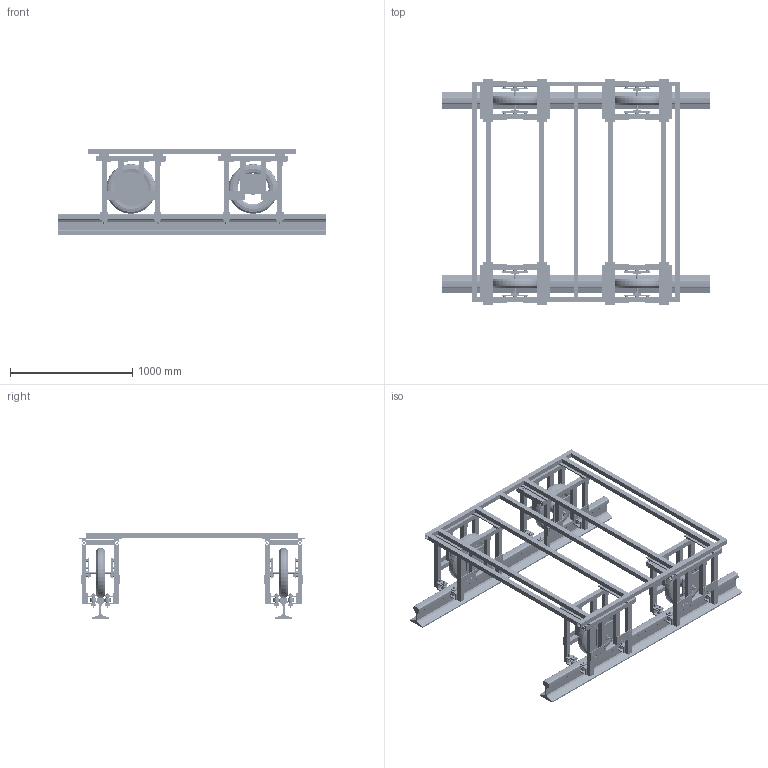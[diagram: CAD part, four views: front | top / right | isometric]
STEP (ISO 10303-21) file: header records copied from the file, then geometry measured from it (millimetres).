
FILE_DESCRIPTION(('Open CASCADE Model'),'2;1');
FILE_NAME('Open CASCADE Shape Model','2026-11-17T01:50:53',('Author'),( 'Open CASCADE'),'Open CASCADE STEP processor 7.8','Open CASCADE 7.8' ,'Unknown');
FILE_SCHEMA(('AUTOMOTIVE_DESIGN { 1 0 10303 214 1 1 1 1 }'));
Length unit declared in the file: millimetre
Products named in the file (624): Four_wheel_RIGID_chassis_DRAFT; REAR_DRIVE_0_M01_Rotating_tire_ASSUMED; REAR_DRIVE_0_M02_Rotating_motor_envelope; REAR_DRIVE_0_M03_Fixed_axle_INPUT_REFERENCE; REAR_DRIVE_0_F01_Long_beam_-1; REAR_DRIVE_0_F02_Post_motor_-1_-1; REAR_DRIVE_0_F02_Post_guide_-1_-1; REAR_DRIVE_0_F02_Post_motor_1_-1; REAR_DRIVE_0_F02_Post_guide_1_-1; REAR_DRIVE_0_F01_Long_beam_1; REAR_DRIVE_0_F02_Post_motor_-1_1; REAR_DRIVE_0_F02_Post_guide_-1_1; REAR_DRIVE_0_F02_Post_motor_1_1; REAR_DRIVE_0_F02_Post_guide_1_1; REAR_DRIVE_0_F03_Cross_beam_-1; REAR_DRIVE_0_F03_Cross_beam_1; REAR_DRIVE_0_A01_Axle_plate_-1; REAR_DRIVE_0_A02_Torque_keeper_-1; REAR_DRIVE_0_A03_M16_washer_-1; REAR_DRIVE_0_A04_M16_axle_nut_-1; REAR_DRIVE_0_A01_Axle_plate_1; REAR_DRIVE_0_A02_Torque_keeper_1; REAR_DRIVE_0_A03_M16_washer_1; REAR_DRIVE_0_A04_M16_axle_nut_1; REAR_DRIVE_0_A05_Spacer_-1_-1_0; REAR_DRIVE_0_A05_Spacer_-1_-1_1; REAR_DRIVE_0_A05_Spacer_-1_-1_2; REAR_DRIVE_0_A05_Spacer_-1_1_0; REAR_DRIVE_0_A05_Spacer_-1_1_1; REAR_DRIVE_0_A05_Spacer_-1_1_2; REAR_DRIVE_0_A05_Spacer_1_-1_0; REAR_DRIVE_0_A05_Spacer_1_-1_1; REAR_DRIVE_0_A05_Spacer_1_-1_2; REAR_DRIVE_0_A05_Spacer_1_1_0; REAR_DRIVE_0_A05_Spacer_1_1_1; REAR_DRIVE_0_A05_Spacer_1_1_2; REAR_DRIVE_0_G01_PU_roller_-1_-1; REAR_DRIVE_0_G02_roller_core_-1_-1; REAR_DRIVE_0_G03_6002DDU_-1_-1_0; REAR_DRIVE_0_G03_6002DDU_-1_-1_1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
Assembly tree (623 placements, depth 2):
  Four_wheel_RIGID_chassis_DRAFT
    REAR_DRIVE_0_M01_Rotating_tire_ASSUMED
    REAR_DRIVE_0_M02_Rotating_motor_envelope
    REAR_DRIVE_0_M03_Fixed_axle_INPUT_REFERENCE
    REAR_DRIVE_0_F01_Long_beam_-1
    REAR_DRIVE_0_F02_Post_motor_-1_-1
    REAR_DRIVE_0_F02_Post_guide_-1_-1
    REAR_DRIVE_0_F02_Post_motor_1_-1
    REAR_DRIVE_0_F02_Post_guide_1_-1
    REAR_DRIVE_0_F01_Long_beam_1
    REAR_DRIVE_0_F02_Post_motor_-1_1
    REAR_DRIVE_0_F02_Post_guide_-1_1
    REAR_DRIVE_0_F02_Post_motor_1_1
    REAR_DRIVE_0_F02_Post_guide_1_1
    REAR_DRIVE_0_F03_Cross_beam_-1
    REAR_DRIVE_0_F03_Cross_beam_1
    REAR_DRIVE_0_A01_Axle_plate_-1
    REAR_DRIVE_0_A02_Torque_keeper_-1
    REAR_DRIVE_0_A03_M16_washer_-1
    REAR_DRIVE_0_A04_M16_axle_nut_-1
    REAR_DRIVE_0_A01_Axle_plate_1
    REAR_DRIVE_0_A02_Torque_keeper_1
    REAR_DRIVE_0_A03_M16_washer_1
    REAR_DRIVE_0_A04_M16_axle_nut_1
    REAR_DRIVE_0_A05_Spacer_-1_-1_0
    REAR_DRIVE_0_A05_Spacer_-1_-1_1
    REAR_DRIVE_0_A05_Spacer_-1_-1_2
    REAR_DRIVE_0_A05_Spacer_-1_1_0
    REAR_DRIVE_0_A05_Spacer_-1_1_1
    REAR_DRIVE_0_A05_Spacer_-1_1_2
    REAR_DRIVE_0_A05_Spacer_1_-1_0
    REAR_DRIVE_0_A05_Spacer_1_-1_1
    REAR_DRIVE_0_A05_Spacer_1_-1_2
    REAR_DRIVE_0_A05_Spacer_1_1_0
    REAR_DRIVE_0_A05_Spacer_1_1_1
    REAR_DRIVE_0_A05_Spacer_1_1_2
    REAR_DRIVE_0_G01_PU_roller_-1_-1
    REAR_DRIVE_0_G02_roller_core_-1_-1
    REAR_DRIVE_0_G03_6002DDU_-1_-1_0
    REAR_DRIVE_0_G03_6002DDU_-1_-1_1
    REAR_DRIVE_0_G04_Inner_spacer_-1_-1
    REAR_DRIVE_0_G05_End_spacer_-1_-1_0
    REAR_DRIVE_0_G05_End_spacer_-1_-1_1
    REAR_DRIVE_0_G06_Spindle_-1_-1
    REAR_DRIVE_0_G07_Lower_yoke_weldment_-1_-1
    REAR_DRIVE_0_G08_Removable_top_arm_-1_-1
    REAR_DRIVE_0_G09_Sliding_clamp_-1_-1_0
    REAR_DRIVE_0_G09_Sliding_clamp_-1_-1_1
    REAR_DRIVE_0_G01_PU_roller_-1_1
    REAR_DRIVE_0_G02_roller_core_-1_1
    REAR_DRIVE_0_G03_6002DDU_-1_1_0
    REAR_DRIVE_0_G03_6002DDU_-1_1_1
    REAR_DRIVE_0_G04_Inner_spacer_-1_1
    REAR_DRIVE_0_G05_End_spacer_-1_1_0
    REAR_DRIVE_0_G05_End_spacer_-1_1_1
    REAR_DRIVE_0_G06_Spindle_-1_1
    REAR_DRIVE_0_G07_Lower_yoke_weldment_-1_1
    REAR_DRIVE_0_G08_Removable_top_arm_-1_1
    REAR_DRIVE_0_G09_Sliding_clamp_-1_1_0
    REAR_DRIVE_0_G09_Sliding_clamp_-1_1_1
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Bounding box: 2200 x 1848 x 704 mm (x, y, z)
Volume: 95457340.9 mm3; surface area: 21066598 mm2
Topology: 623 solids, 623 shells, 6066 faces, 13904 edges, 9160 vertices
Faces by surface type: plane 4356, cylinder 1374, cone 336
Full cylindrical faces by diameter (mm): 5 x32, 6.6 x32, 6.8 x96, 8.4 x128, 9 x416, 12 x32, 13 x64, 15 x48, 15.2 x48, 16 x140, 16.4 x8, 18 x2, 20 x48, 21 x48, 24 x48, 32 x72, 42 x32, 100 x2, 238 x4, 254 x8, 279 x2
Entity records: 373802 total; most frequent: CARTESIAN_POINT 65042, DIRECTION 56828, LINE 35520, VECTOR 35520, ORIENTED_EDGE 27808, PCURVE 27808, DEFINITIONAL_REPRESENTATION 27808, EDGE_CURVE 13904
